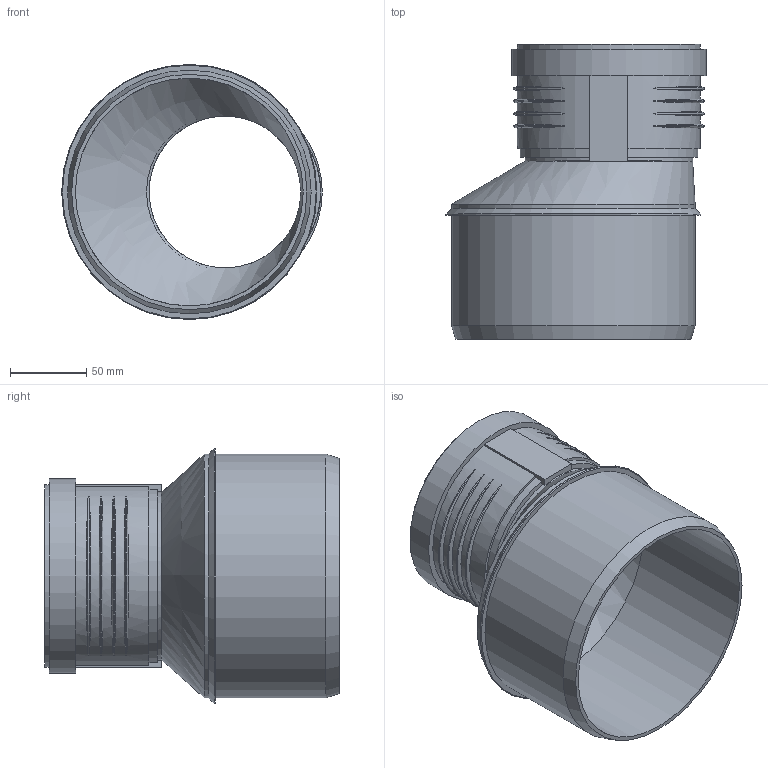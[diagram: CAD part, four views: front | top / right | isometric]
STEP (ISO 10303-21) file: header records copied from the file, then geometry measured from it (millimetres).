
FILE_DESCRIPTION(/* description */ (''),/* implementation_level */ '2;1');
FILE_NAME(/* name */ 'Z:\Geberit\Export\NewStep\390775.stp',/* time_stamp */ '2014-04-02T08:17:01+02:00',/* author */ ('ML'),/* organization */ (''),/* preprocessor_version */ 'ST-DEVELOPER v15.2',/* originating_system */ 'Autodesk Inventor 2014',/* authorisation */ '');
FILE_SCHEMA (('AUTOMOTIVE_DESIGN { 1 0 10303 214 3 1 1 }'));
Length unit declared in the file: millimetre
Products named in the file (3): 861620; 861404; 390775
Bounding box: 171.39 x 194 x 167.85 mm (x, y, z)
Volume: 410217.8 mm3; surface area: 197752.3 mm2
Topology: 2 solids, 2 shells, 68 faces, 162 edges, 112 vertices
Faces by surface type: torus 25, plane 20, cylinder 18, cone 3, bspline 2
Full cylindrical faces by diameter (mm): 99.8 x1, 103.2 x1, 110.2 x2, 113.3 x2, 120.3 x1, 121.1 x1, 128.1 x1, 149.85 x1, 160.25 x2
Entity records: 2726 total; most frequent: CARTESIAN_POINT 1117, DIRECTION 296, ORIENTED_EDGE 290, EDGE_CURVE 145, AXIS2_PLACEMENT_3D 130, VERTEX_POINT 111, EDGE_LOOP 102, STYLED_ITEM 68
